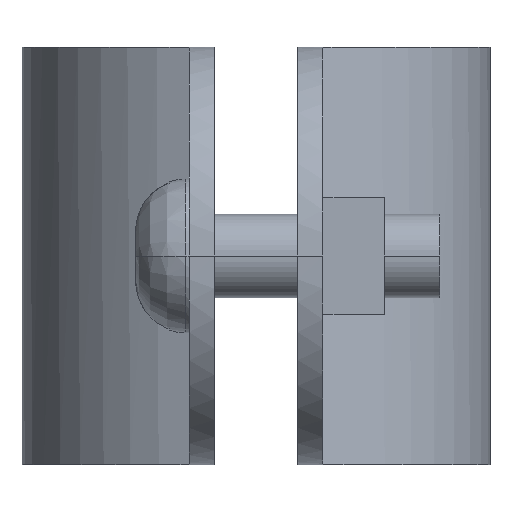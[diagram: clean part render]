
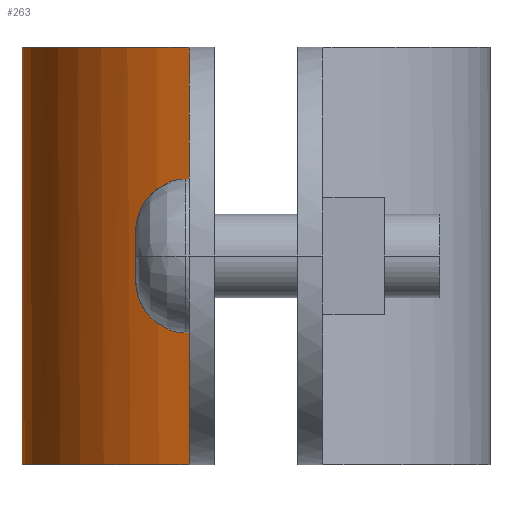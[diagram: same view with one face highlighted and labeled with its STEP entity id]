
A CAD part, left-side view. The second image highlights one B-rep face of the part: STEP entity #263.
In plain terms, the highlighted free-form (B-spline) face has degree [3, 1] with [4, 2] control points.
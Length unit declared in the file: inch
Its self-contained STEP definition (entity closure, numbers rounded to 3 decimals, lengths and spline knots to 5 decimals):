
#263=ADVANCED_FACE('',(#523),#524,.T.);
#523=FACE_OUTER_BOUND('',#1184,.T.);
#524=B_SPLINE_SURFACE_WITH_KNOTS('',3,1,((#1185,#1186),(#1187,#1188),(#1189,#1190),(#1191,#1192)),.UNSPECIFIED.,.F.,.F.,.F.,(4,4),(2,2),(-1.0,-0.0),(0.0,1.25),.UNSPECIFIED.);
#1184=EDGE_LOOP('',(#1777,#1778,#1779,#1780));
#1185=CARTESIAN_POINT('',(1.20584,1.57282,0.0));
#1186=CARTESIAN_POINT('',(1.20584,1.57282,1.25));
#1187=CARTESIAN_POINT('',(0.89642,1.57282,0.0));
#1188=CARTESIAN_POINT('',(0.89642,1.57282,1.25));
#1189=CARTESIAN_POINT('',(0.62373,1.36958,0.0));
#1190=CARTESIAN_POINT('',(0.62373,1.36958,1.25));
#1191=CARTESIAN_POINT('',(0.5353,1.07303,0.0));
#1192=CARTESIAN_POINT('',(0.5353,1.07303,1.25));
#1777=ORIENTED_EDGE('',*,*,#2228,.T.);
#1778=ORIENTED_EDGE('',*,*,#2195,.T.);
#1779=ORIENTED_EDGE('',*,*,#2229,.T.);
#1780=ORIENTED_EDGE('',*,*,#2230,.F.);
#2195=EDGE_CURVE('',#2572,#2576,#2578,.T.);
#2228=EDGE_CURVE('',#2622,#2572,#2623,.T.);
#2229=EDGE_CURVE('',#2576,#2624,#2625,.T.);
#2230=EDGE_CURVE('',#2622,#2624,#2626,.T.);
#2572=VERTEX_POINT('',#3284);
#2576=VERTEX_POINT('',#3292);
#2578=LINE('',#3295,#3296);
#2622=VERTEX_POINT('',#3399);
#2623=B_SPLINE_CURVE_WITH_KNOTS('',3,(#3400,#3401,#3402,#3403),.UNSPECIFIED.,.F.,.F.,(4,4),(-1.0,-0.0),.UNSPECIFIED.);
#2624=VERTEX_POINT('',#3404);
#2625=B_SPLINE_CURVE_WITH_KNOTS('',3,(#3405,#3406,#3407,#3408),.UNSPECIFIED.,.F.,.F.,(4,4),(0.0,1.0),.UNSPECIFIED.);
#2626=LINE('',#3409,#3410);
#3284=CARTESIAN_POINT('',(0.5353,1.07303,0.00011));
#3292=CARTESIAN_POINT('',(0.5353,1.07303,1.24989));
#3295=CARTESIAN_POINT('',(0.5353,1.07303,0.0));
#3296=VECTOR('',#3634,1.0);
#3399=CARTESIAN_POINT('',(1.20584,1.57282,0.00011));
#3400=CARTESIAN_POINT('',(1.20584,1.57282,0.00011));
#3401=CARTESIAN_POINT('',(0.89642,1.57282,0.00011));
#3402=CARTESIAN_POINT('',(0.62373,1.36958,0.00011));
#3403=CARTESIAN_POINT('',(0.5353,1.07303,0.00011));
#3404=CARTESIAN_POINT('',(1.20584,1.57282,1.24989));
#3405=CARTESIAN_POINT('',(0.5353,1.07303,1.24989));
#3406=CARTESIAN_POINT('',(0.62373,1.36958,1.24989));
#3407=CARTESIAN_POINT('',(0.89642,1.57282,1.24989));
#3408=CARTESIAN_POINT('',(1.20584,1.57282,1.24989));
#3409=CARTESIAN_POINT('',(1.20584,1.57282,0.0));
#3410=VECTOR('',#3650,1.0);
#3634=DIRECTION('',(0.0,0.0,1.0));
#3650=DIRECTION('',(0.0,0.0,1.0));
